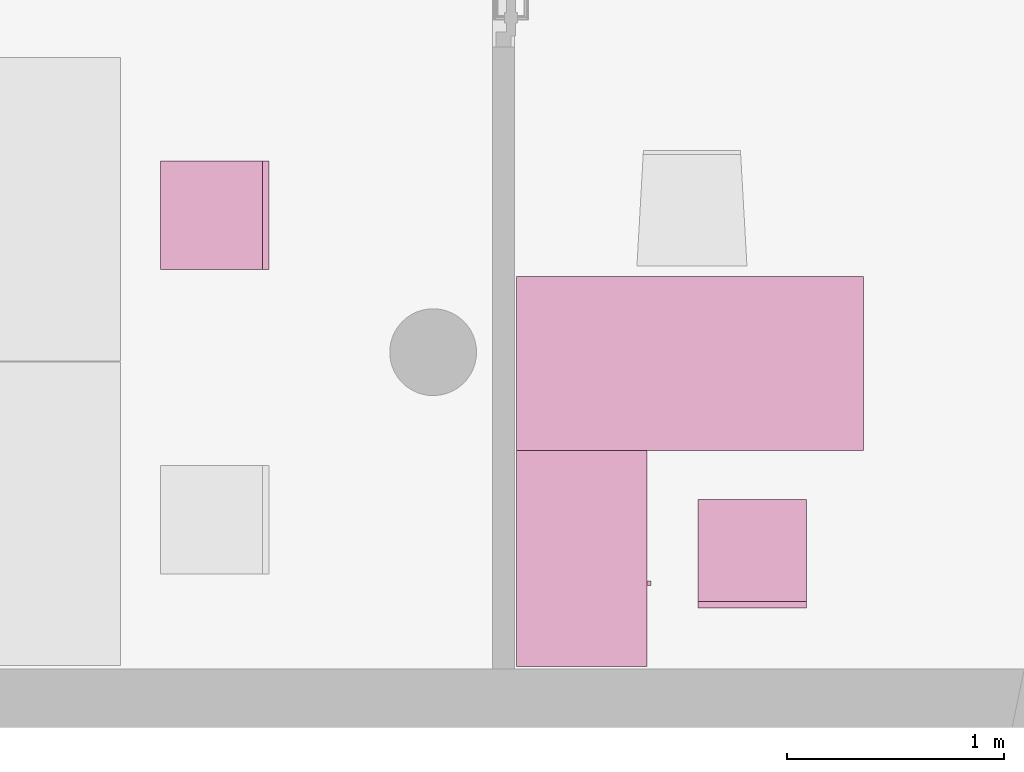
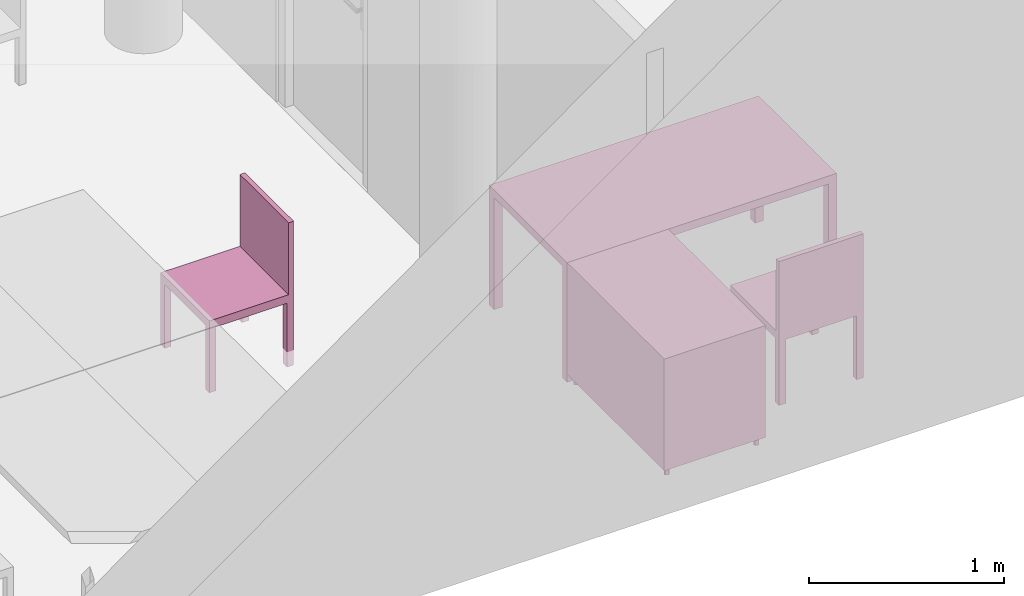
"""IFC4 building model written with IfcOpenShell, lengths in metres."""

from ifc_helpers import new_model, entity, si_unit, converted_unit, derived_unit, frame, origin, place, context, subcontext, project, spatial, faceted_brep, element, save


model = new_model("IFC4")

# Units and contexts
model_context = context("Model", 3, precision=1e-05, world=origin())
body_context = subcontext(model_context, "Body", "Model", "MODEL_VIEW")
ifc_project = project(units=[si_unit("LENGTHUNIT", "METRE"), si_unit("AREAUNIT", "SQUARE_METRE"), si_unit("VOLUMEUNIT", "CUBIC_METRE"), si_unit("MASSUNIT", "GRAM", prefix="KILO"), converted_unit("PLANEANGLEUNIT", "DEGREE", entity("IfcPlaneAngleMeasure", 0.0174532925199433), si_unit("PLANEANGLEUNIT", "RADIAN"), dimensions=[0, 0, 0, 0, 0, 0, 0]), derived_unit("THERMALTRANSMITTANCEUNIT", [(si_unit("POWERUNIT", "WATT"), 1), (si_unit("THERMODYNAMICTEMPERATUREUNIT", "KELVIN"), -1), (si_unit("LENGTHUNIT", "METRE"), -2)]), derived_unit("VOLUMETRICFLOWRATEUNIT", [(si_unit("LENGTHUNIT", "METRE"), 3), (converted_unit("TIMEUNIT", "hour", entity("IfcTimeMeasure", 3600.0), si_unit("TIMEUNIT", "SECOND"), dimensions=[0, 0, 1, 0, 0, 0, 0]), -1), (si_unit("LENGTHUNIT", "METRE"), -1)])], contexts=[model_context])

# Building, storeys
building_placement = place(None, origin())
building = spatial("IfcBuilding", under=ifc_project, at=building_placement, Name="HABITATGE PLURIFAMILIAR", CompositionType="ELEMENT")
storey_1_placement = place(building_placement, frame((0.0, 0.0, 12.27)))
storey_1 = spatial("IfcBuildingStorey", under=building, at=storey_1_placement, Name="PLANTA TERCERA", CompositionType="ELEMENT", Elevation=12.27)
storey_2_placement = place(storey_1_placement, frame((0.0, 0.0, 9.26)))
storey_2 = spatial("IfcBuildingStorey", under=storey_1, at=storey_2_placement, Name="NOU", CompositionType="PARTIAL")

# Furniture
furniture_1_placement = place(storey_2_placement, frame((421.376128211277, 14.117814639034, -9.3599999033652)))
element("IfcFurniture", 1, at=furniture_1_placement, inside=storey_2, Name="Taula 160X80_P3", context=body_context, shape_type="Brep", body=[
    faceted_brep([(1.546945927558, 0.750069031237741, 0.0), (1.596945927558, 0.750069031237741, 0.0), (1.596945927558, 0.800069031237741, 0.0), (1.546945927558, 0.800069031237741, 0.0), (1.546945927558, 0.800069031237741, 0.7), (1.596945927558, 0.800069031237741, 0.7), (1.596945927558, 0.750069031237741, 0.7), (1.546945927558, 0.750069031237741, 0.7)], [[[0, 1, 2, 3]], [[4, 5, 6, 7]], [[3, 4, 7, 0]], [[2, 5, 4, 3]], [[1, 6, 5, 2]], [[0, 7, 6, 1]]], orient=[[False], [False], [False], [False], [False], [False]]),
    faceted_brep([(1.546945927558, 0.0, 0.0), (1.596945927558, 0.0, 0.0), (1.596945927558, 0.05, 0.0), (1.546945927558, 0.05, 0.0), (1.546945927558, 0.05, 0.7), (1.596945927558, 0.05, 0.7), (1.596945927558, 0.0, 0.7), (1.546945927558, 0.0, 0.7)], [[[0, 1, 2, 3]], [[4, 5, 6, 7]], [[3, 4, 7, 0]], [[2, 5, 4, 3]], [[1, 6, 5, 2]], [[0, 7, 6, 1]]], orient=[[False], [False], [False], [False], [False], [False]]),
    faceted_brep([(0.0, 0.0, 0.7), (1.596945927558, 0.0, 0.7), (1.596945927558, 0.800069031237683, 0.7), (0.0, 0.800069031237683, 0.7), (0.0, 0.800069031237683, 0.75), (1.596945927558, 0.800069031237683, 0.75), (1.596945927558, 0.0, 0.75), (0.0, 0.0, 0.75)], [[[0, 1, 2, 3]], [[4, 5, 6, 7]], [[3, 4, 7, 0]], [[2, 5, 4, 3]], [[1, 6, 5, 2]], [[0, 7, 6, 1]]], orient=[[False], [False], [False], [False], [False], [False]]),
    faceted_brep([(0.0, 0.750069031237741, 0.0), (0.05, 0.750069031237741, 0.0), (0.05, 0.800069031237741, 0.0), (0.0, 0.800069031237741, 0.0), (0.0, 0.800069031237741, 0.7), (0.05, 0.800069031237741, 0.7), (0.05, 0.750069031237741, 0.7), (0.0, 0.750069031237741, 0.7)], [[[0, 1, 2, 3]], [[4, 5, 6, 7]], [[3, 4, 7, 0]], [[2, 5, 4, 3]], [[1, 6, 5, 2]], [[0, 7, 6, 1]]], orient=[[False], [False], [False], [False], [False], [False]]),
    faceted_brep([(0.0, 0.0, 0.0), (0.05, 0.0, 0.0), (0.05, 0.05, 0.0), (0.0, 0.05, 0.0), (0.0, 0.05, 0.7), (0.05, 0.05, 0.7), (0.05, 0.0, 0.7), (0.0, 0.0, 0.7)], [[[0, 1, 2, 3]], [[4, 5, 6, 7]], [[3, 4, 7, 0]], [[2, 5, 4, 3]], [[1, 6, 5, 2]], [[0, 7, 6, 1]]], orient=[[False], [False], [False], [False], [False], [False]]),
])
furniture_2_placement = place(storey_2_placement, frame((421.376128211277, 13.121840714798, -9.3599999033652)))
element("IfcFurniture", 2, at=furniture_2_placement, inside=storey_2, Name="Taula 100X60_P3", context=body_context, shape_type="Brep", body=[
    faceted_brep([(0.0, 1.00000000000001, 0.05), (0.6, 1.00000000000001, 0.05), (0.6, 1.00000000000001, 0.07), (0.0, 1.00000000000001, 0.07), (0.6, 0.0, 0.05), (0.6, 0.0, 0.07), (0.0, 0.0, 0.05), (0.0, 0.0, 0.07)], [[[0, 1, 2, 3]], [[1, 4, 5, 2]], [[4, 6, 7, 5]], [[6, 0, 3, 7]], [[0, 6, 4, 1]], [[3, 2, 5, 7]]], orient=[[False], [False], [False], [False], [False], [False]]),
    faceted_brep([(0.58, 1.00000000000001, 0.35), (0.0, 1.00000000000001, 0.35), (0.0, 0.0, 0.35), (0.58, 0.0, 0.35), (0.0, 1.00000000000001, 0.37), (0.58, 1.00000000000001, 0.37), (0.58, 0.0, 0.37), (0.0, 0.0, 0.37)], [[[0, 1, 2, 3]], [[4, 5, 6, 7]], [[1, 0, 5, 4]], [[2, 1, 4, 7]], [[3, 2, 7, 6]], [[0, 3, 6, 5]]], orient=[[False], [False], [False], [False], [False], [False]]),
    faceted_brep([(0.58, 0.490000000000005, 0.75), (0.58, 0.490000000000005, 0.05), (0.6, 0.490000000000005, 0.05), (0.6, 0.490000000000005, 0.75), (0.58, 0.0, 0.05), (0.6, 0.0, 0.05), (0.58, 0.0, 0.75), (0.6, 0.0, 0.75)], [[[0, 1, 2, 3]], [[1, 4, 5, 2]], [[4, 6, 7, 5]], [[6, 0, 3, 7]], [[0, 6, 4, 1]], [[3, 2, 5, 7]]], orient=[[False], [False], [False], [False], [False], [False]]),
    faceted_brep([(0.0, 0.980000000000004, 0.75), (0.0, 0.980000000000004, 0.0499999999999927), (0.0, 1.0, 0.0499999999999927), (0.0, 1.0, 0.75), (0.6, 0.980000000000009, 0.05), (0.6, 1.00000000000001, 0.05), (0.6, 0.980000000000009, 0.75), (0.6, 1.00000000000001, 0.75)], [[[0, 1, 2, 3]], [[1, 4, 5, 2]], [[4, 6, 7, 5]], [[6, 0, 3, 7]], [[0, 6, 4, 1]], [[3, 2, 5, 7]]], orient=[[False], [False], [False], [False], [False], [False]]),
    faceted_brep([(0.0, 0.470000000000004, 0.75), (0.0, 0.470000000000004, 0.0499999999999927), (0.0, 0.490000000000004, 0.0499999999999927), (0.0, 0.490000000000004, 0.75), (0.6, 0.470000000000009, 0.05), (0.6, 0.490000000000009, 0.05), (0.6, 0.470000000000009, 0.75), (0.6, 0.490000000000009, 0.75)], [[[0, 1, 2, 3]], [[1, 4, 5, 2]], [[4, 6, 7, 5]], [[6, 0, 3, 7]], [[0, 6, 4, 1]], [[3, 2, 5, 7]]], orient=[[False], [False], [False], [False], [False], [False]]),
    faceted_brep([(0.0, 0.47, 0.750000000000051), (0.0, 0.47, 0.0499999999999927), (0.0, 0.490000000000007, 0.0499999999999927), (0.0, 0.490000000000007, 0.750000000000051), (0.579999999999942, 0.469999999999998, 0.0499999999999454), (0.579999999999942, 0.490000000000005, 0.0499999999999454), (0.58, 0.469999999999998, 0.750000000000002), (0.58, 0.490000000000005, 0.750000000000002)], [[[0, 1, 2, 3]], [[1, 4, 5, 2]], [[4, 6, 7, 5]], [[6, 0, 3, 7]], [[0, 6, 4, 1]], [[3, 2, 5, 7]]], orient=[[False], [False], [False], [False], [False], [False]]),
    faceted_brep([(0.0, 0.0, 0.75), (0.0, 0.0, 0.0499999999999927), (0.0, 0.0200000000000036, 0.0499999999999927), (0.0, 0.0200000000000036, 0.75), (0.6, 0.0, 0.05), (0.6, 0.0200000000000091, 0.05), (0.6, 0.0, 0.75), (0.6, 0.0200000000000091, 0.75)], [[[0, 1, 2, 3]], [[1, 4, 5, 2]], [[4, 6, 7, 5]], [[6, 0, 3, 7]], [[0, 6, 4, 1]], [[3, 2, 5, 7]]], orient=[[False], [False], [False], [False], [False], [False]]),
    faceted_brep([(0.0, 1.00000000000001, 0.73), (0.6, 1.00000000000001, 0.73), (0.6, 1.00000000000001, 0.75), (0.0, 1.00000000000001, 0.75), (0.6, 0.0, 0.73), (0.6, 0.0, 0.75), (0.0, 0.0, 0.73), (0.0, 0.0, 0.75)], [[[0, 1, 2, 3]], [[1, 4, 5, 2]], [[4, 6, 7, 5]], [[6, 0, 3, 7]], [[0, 6, 4, 1]], [[3, 2, 5, 7]]], orient=[[False], [False], [False], [False], [False], [False]]),
    faceted_brep([(0.0, 0.980000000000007, 0.75), (0.0, 0.980000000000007, 0.05), (0.02, 0.980000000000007, 0.05), (0.02, 0.980000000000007, 0.75), (0.0, 0.0, 0.05), (0.02, 0.0, 0.05), (0.0, 0.0, 0.75), (0.02, 0.0, 0.75)], [[[0, 1, 2, 3]], [[1, 4, 5, 2]], [[4, 6, 7, 5]], [[6, 0, 3, 7]], [[0, 6, 4, 1]], [[3, 2, 5, 7]]], orient=[[False], [False], [False], [False], [False], [False]]),
    faceted_brep([(0.6, 0.374420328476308, 0.35), (0.62, 0.374420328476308, 0.35), (0.62, 0.394420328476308, 0.35), (0.6, 0.394420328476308, 0.35), (0.6, 0.394420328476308, 0.45), (0.62, 0.394420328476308, 0.45), (0.62, 0.374420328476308, 0.45), (0.6, 0.374420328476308, 0.45)], [[[0, 1, 2, 3]], [[4, 5, 6, 7]], [[3, 4, 7, 0]], [[2, 5, 4, 3]], [[1, 6, 5, 2]], [[0, 7, 6, 1]]], orient=[[False], [False], [False], [False], [False], [False]]),
    faceted_brep([(0.0361788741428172, 0.950063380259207, 0.0), (0.038772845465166, 0.950290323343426, 0.0), (0.0412880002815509, 0.950964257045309, 0.0), (0.0436479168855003, 0.95206470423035, 0.0), (0.0457808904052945, 0.953558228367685, 0.0), (0.0476221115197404, 0.955399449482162, 0.0), (0.0491156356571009, 0.957532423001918, 0.0), (0.0502160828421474, 0.959892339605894, 0.0), (0.0508900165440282, 0.962407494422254, 0.0), (0.0511169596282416, 0.96500146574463, 0.0), (0.0508900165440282, 0.967595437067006, 0.0), (0.0502160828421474, 0.970110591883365, 0.0), (0.0491156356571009, 0.972470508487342, 0.0), (0.0476221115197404, 0.974603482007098, 0.0), (0.0457808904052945, 0.976444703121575, 0.0), (0.0436479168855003, 0.97793822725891, 0.0), (0.0412880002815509, 0.979038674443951, 0.0), (0.038772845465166, 0.979712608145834, 0.0), (0.0361788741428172, 0.979939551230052, 0.0), (0.0335849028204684, 0.979712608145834, 0.0), (0.0310697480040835, 0.979038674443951, 0.0), (0.0287098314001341, 0.97793822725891, 0.0), (0.02657685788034, 0.976444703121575, 0.0), (0.024735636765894, 0.974603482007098, 0.0), (0.0232421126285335, 0.972470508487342, 0.0), (0.022141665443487, 0.970110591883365, 0.0), (0.0214677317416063, 0.967595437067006, 0.0), (0.0212407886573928, 0.96500146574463, 0.0), (0.0214677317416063, 0.962407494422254, 0.0), (0.022141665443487, 0.959892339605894, 0.0), (0.0232421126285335, 0.957532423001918, 0.0), (0.024735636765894, 0.955399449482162, 0.0), (0.02657685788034, 0.953558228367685, 0.0), (0.0287098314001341, 0.95206470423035, 0.0), (0.0310697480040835, 0.950964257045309, 0.0), (0.0335849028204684, 0.950290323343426, 0.0), (0.0361788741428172, 0.950063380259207, 0.05), (0.0335849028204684, 0.950290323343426, 0.05), (0.0310697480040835, 0.950964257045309, 0.05), (0.0287098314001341, 0.95206470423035, 0.05), (0.02657685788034, 0.953558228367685, 0.05), (0.024735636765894, 0.955399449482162, 0.05), (0.0232421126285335, 0.957532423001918, 0.05), (0.022141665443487, 0.959892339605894, 0.05), (0.0214677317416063, 0.962407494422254, 0.05), (0.0212407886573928, 0.96500146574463, 0.05), (0.0214677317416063, 0.967595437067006, 0.05), (0.022141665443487, 0.970110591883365, 0.05), (0.0232421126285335, 0.972470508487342, 0.05), (0.024735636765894, 0.974603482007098, 0.05), (0.02657685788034, 0.976444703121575, 0.05), (0.0287098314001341, 0.97793822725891, 0.05), (0.0310697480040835, 0.979038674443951, 0.05), (0.0335849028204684, 0.979712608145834, 0.05), (0.0361788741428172, 0.979939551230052, 0.05), (0.038772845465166, 0.979712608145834, 0.05), (0.0412880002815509, 0.979038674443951, 0.05), (0.0436479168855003, 0.97793822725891, 0.05), (0.0457808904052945, 0.976444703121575, 0.05), (0.0476221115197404, 0.974603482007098, 0.05), (0.0491156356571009, 0.972470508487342, 0.05), (0.0502160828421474, 0.970110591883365, 0.05), (0.0508900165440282, 0.967595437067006, 0.05), (0.0511169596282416, 0.96500146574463, 0.05), (0.0508900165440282, 0.962407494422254, 0.05), (0.0502160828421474, 0.959892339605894, 0.05), (0.0491156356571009, 0.957532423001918, 0.05), (0.0476221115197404, 0.955399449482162, 0.05), (0.0457808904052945, 0.953558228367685, 0.05), (0.0436479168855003, 0.95206470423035, 0.05), (0.0412880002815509, 0.950964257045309, 0.05), (0.038772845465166, 0.950290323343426, 0.05)], [[[0, 1, 2, 3, 4, 5, 6, 7, 8, 9, 10, 11, 12, 13, 14, 15, 16, 17, 18, 19, 20, 21, 22, 23, 24, 25, 26, 27, 28, 29, 30, 31, 32, 33, 34, 35]], [[36, 37, 38, 39, 40, 41, 42, 43, 44, 45, 46, 47, 48, 49, 50, 51, 52, 53, 54, 55, 56, 57, 58, 59, 60, 61, 62, 63, 64, 65, 66, 67, 68, 69, 70, 71]], [[1, 0, 36, 71]], [[2, 1, 71, 70]], [[3, 2, 70, 69]], [[4, 3, 69, 68]], [[5, 4, 68, 67]], [[6, 5, 67, 66]], [[7, 6, 66, 65]], [[8, 7, 65, 64]], [[9, 8, 64, 63]], [[10, 9, 63, 62]], [[11, 10, 62, 61]], [[12, 11, 61, 60]], [[13, 12, 60, 59]], [[14, 13, 59, 58]], [[15, 14, 58, 57]], [[16, 15, 57, 56]], [[17, 16, 56, 55]], [[18, 17, 55, 54]], [[19, 18, 54, 53]], [[20, 19, 53, 52]], [[21, 20, 52, 51]], [[22, 21, 51, 50]], [[23, 22, 50, 49]], [[24, 23, 49, 48]], [[25, 24, 48, 47]], [[26, 25, 47, 46]], [[27, 26, 46, 45]], [[28, 27, 45, 44]], [[29, 28, 44, 43]], [[30, 29, 43, 42]], [[31, 30, 42, 41]], [[32, 31, 41, 40]], [[33, 32, 40, 39]], [[34, 33, 39, 38]], [[35, 34, 38, 37]], [[0, 35, 37, 36]]], orient=[[False], [False], [False], [False], [False], [False], [False], [False], [False], [False], [False], [False], [False], [False], [False], [False], [False], [False], [False], [False], [False], [False], [False], [False], [False], [False], [False], [False], [False], [False], [False], [False], [False], [False], [False], [False], [False], [False]]),
    faceted_brep([(0.566178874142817, 0.950063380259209, 0.0), (0.568772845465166, 0.950290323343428, 0.0), (0.571288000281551, 0.950964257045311, 0.0), (0.5736479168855, 0.952064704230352, 0.0), (0.575780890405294, 0.953558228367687, 0.0), (0.57762211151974, 0.955399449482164, 0.0), (0.579115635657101, 0.95753242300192, 0.0), (0.580216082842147, 0.959892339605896, 0.0), (0.580890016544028, 0.962407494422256, 0.0), (0.581116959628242, 0.965001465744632, 0.0), (0.580890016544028, 0.967595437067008, 0.0), (0.580216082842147, 0.970110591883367, 0.0), (0.579115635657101, 0.972470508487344, 0.0), (0.57762211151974, 0.9746034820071, 0.0), (0.575780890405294, 0.976444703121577, 0.0), (0.5736479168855, 0.977938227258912, 0.0), (0.571288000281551, 0.979038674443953, 0.0), (0.568772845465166, 0.979712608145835, 0.0), (0.566178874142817, 0.979939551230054, 0.0), (0.563584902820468, 0.979712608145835, 0.0), (0.561069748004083, 0.979038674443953, 0.0), (0.558709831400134, 0.977938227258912, 0.0), (0.55657685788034, 0.976444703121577, 0.0), (0.554735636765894, 0.9746034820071, 0.0), (0.553242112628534, 0.972470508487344, 0.0), (0.552141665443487, 0.970110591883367, 0.0), (0.551467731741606, 0.967595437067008, 0.0), (0.551240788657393, 0.965001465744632, 0.0), (0.551467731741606, 0.962407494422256, 0.0), (0.552141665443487, 0.959892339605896, 0.0), (0.553242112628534, 0.95753242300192, 0.0), (0.554735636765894, 0.955399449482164, 0.0), (0.55657685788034, 0.953558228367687, 0.0), (0.558709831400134, 0.952064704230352, 0.0), (0.561069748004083, 0.950964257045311, 0.0), (0.563584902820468, 0.950290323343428, 0.0), (0.566178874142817, 0.950063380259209, 0.05), (0.563584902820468, 0.950290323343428, 0.05), (0.561069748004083, 0.950964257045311, 0.05), (0.558709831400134, 0.952064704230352, 0.05), (0.55657685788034, 0.953558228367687, 0.05), (0.554735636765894, 0.955399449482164, 0.05), (0.553242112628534, 0.95753242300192, 0.05), (0.552141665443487, 0.959892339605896, 0.05), (0.551467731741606, 0.962407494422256, 0.05), (0.551240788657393, 0.965001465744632, 0.05), (0.551467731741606, 0.967595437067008, 0.05), (0.552141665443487, 0.970110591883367, 0.05), (0.553242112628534, 0.972470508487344, 0.05), (0.554735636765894, 0.9746034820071, 0.05), (0.55657685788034, 0.976444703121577, 0.05), (0.558709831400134, 0.977938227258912, 0.05), (0.561069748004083, 0.979038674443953, 0.05), (0.563584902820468, 0.979712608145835, 0.05), (0.566178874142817, 0.979939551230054, 0.05), (0.568772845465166, 0.979712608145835, 0.05), (0.571288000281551, 0.979038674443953, 0.05), (0.5736479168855, 0.977938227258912, 0.05), (0.575780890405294, 0.976444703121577, 0.05), (0.57762211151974, 0.9746034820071, 0.05), (0.579115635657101, 0.972470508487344, 0.05), (0.580216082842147, 0.970110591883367, 0.05), (0.580890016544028, 0.967595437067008, 0.05), (0.581116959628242, 0.965001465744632, 0.05), (0.580890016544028, 0.962407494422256, 0.05), (0.580216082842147, 0.959892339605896, 0.05), (0.579115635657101, 0.95753242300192, 0.05), (0.57762211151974, 0.955399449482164, 0.05), (0.575780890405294, 0.953558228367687, 0.05), (0.5736479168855, 0.952064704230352, 0.05), (0.571288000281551, 0.950964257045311, 0.05), (0.568772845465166, 0.950290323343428, 0.05)], [[[0, 1, 2, 3, 4, 5, 6, 7, 8, 9, 10, 11, 12, 13, 14, 15, 16, 17, 18, 19, 20, 21, 22, 23, 24, 25, 26, 27, 28, 29, 30, 31, 32, 33, 34, 35]], [[36, 37, 38, 39, 40, 41, 42, 43, 44, 45, 46, 47, 48, 49, 50, 51, 52, 53, 54, 55, 56, 57, 58, 59, 60, 61, 62, 63, 64, 65, 66, 67, 68, 69, 70, 71]], [[1, 0, 36, 71]], [[2, 1, 71, 70]], [[3, 2, 70, 69]], [[4, 3, 69, 68]], [[5, 4, 68, 67]], [[6, 5, 67, 66]], [[7, 6, 66, 65]], [[8, 7, 65, 64]], [[9, 8, 64, 63]], [[10, 9, 63, 62]], [[11, 10, 62, 61]], [[12, 11, 61, 60]], [[13, 12, 60, 59]], [[14, 13, 59, 58]], [[15, 14, 58, 57]], [[16, 15, 57, 56]], [[17, 16, 56, 55]], [[18, 17, 55, 54]], [[19, 18, 54, 53]], [[20, 19, 53, 52]], [[21, 20, 52, 51]], [[22, 21, 51, 50]], [[23, 22, 50, 49]], [[24, 23, 49, 48]], [[25, 24, 48, 47]], [[26, 25, 47, 46]], [[27, 26, 46, 45]], [[28, 27, 45, 44]], [[29, 28, 44, 43]], [[30, 29, 43, 42]], [[31, 30, 42, 41]], [[32, 31, 41, 40]], [[33, 32, 40, 39]], [[34, 33, 39, 38]], [[35, 34, 38, 37]], [[0, 35, 37, 36]]], orient=[[False], [False], [False], [False], [False], [False], [False], [False], [False], [False], [False], [False], [False], [False], [False], [False], [False], [False], [False], [False], [False], [False], [False], [False], [False], [False], [False], [False], [False], [False], [False], [False], [False], [False], [False], [False], [False], [False]]),
    faceted_brep([(0.564999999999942, 0.0200170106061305, 0.0), (0.567593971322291, 0.0202439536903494, 0.0), (0.570109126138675, 0.0209178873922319, 0.0), (0.572469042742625, 0.022018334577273, 0.0), (0.574602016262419, 0.023511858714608, 0.0), (0.576443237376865, 0.0253530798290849, 0.0), (0.577936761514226, 0.0274860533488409, 0.0), (0.579037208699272, 0.0298459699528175, 0.0), (0.579711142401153, 0.032361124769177, 0.0), (0.579938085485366, 0.0349550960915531, 0.0), (0.579711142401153, 0.0375490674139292, 0.0), (0.579037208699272, 0.0400642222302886, 0.0), (0.577936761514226, 0.0424241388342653, 0.0), (0.576443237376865, 0.0445571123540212, 0.0), (0.574602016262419, 0.0463983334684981, 0.0), (0.572469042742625, 0.0478918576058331, 0.0), (0.570109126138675, 0.0489923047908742, 0.0), (0.567593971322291, 0.0496662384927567, 0.0), (0.564999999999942, 0.0498931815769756, 0.0), (0.562406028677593, 0.0496662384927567, 0.0), (0.559890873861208, 0.0489923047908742, 0.0), (0.557530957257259, 0.0478918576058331, 0.0), (0.555397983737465, 0.0463983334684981, 0.0), (0.553556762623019, 0.0445571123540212, 0.0), (0.552063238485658, 0.0424241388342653, 0.0), (0.550962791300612, 0.0400642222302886, 0.0), (0.550288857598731, 0.0375490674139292, 0.0), (0.550061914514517, 0.0349550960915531, 0.0), (0.550288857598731, 0.032361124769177, 0.0), (0.550962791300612, 0.0298459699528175, 0.0), (0.552063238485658, 0.0274860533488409, 0.0), (0.553556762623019, 0.0253530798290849, 0.0), (0.555397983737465, 0.023511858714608, 0.0), (0.557530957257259, 0.022018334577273, 0.0), (0.559890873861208, 0.0209178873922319, 0.0), (0.562406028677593, 0.0202439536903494, 0.0), (0.564999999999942, 0.0200170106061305, 0.05), (0.562406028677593, 0.0202439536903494, 0.05), (0.559890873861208, 0.0209178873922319, 0.05), (0.557530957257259, 0.022018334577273, 0.05), (0.555397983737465, 0.023511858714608, 0.05), (0.553556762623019, 0.0253530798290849, 0.05), (0.552063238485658, 0.0274860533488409, 0.05), (0.550962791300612, 0.0298459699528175, 0.05), (0.550288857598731, 0.032361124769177, 0.05), (0.550061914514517, 0.0349550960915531, 0.05), (0.550288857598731, 0.0375490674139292, 0.05), (0.550962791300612, 0.0400642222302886, 0.05), (0.552063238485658, 0.0424241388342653, 0.05), (0.553556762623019, 0.0445571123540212, 0.05), (0.555397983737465, 0.0463983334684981, 0.05), (0.557530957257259, 0.0478918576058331, 0.05), (0.559890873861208, 0.0489923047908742, 0.05), (0.562406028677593, 0.0496662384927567, 0.05), (0.564999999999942, 0.0498931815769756, 0.05), (0.567593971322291, 0.0496662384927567, 0.05), (0.570109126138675, 0.0489923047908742, 0.05), (0.572469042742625, 0.0478918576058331, 0.05), (0.574602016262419, 0.0463983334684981, 0.05), (0.576443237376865, 0.0445571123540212, 0.05), (0.577936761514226, 0.0424241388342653, 0.05), (0.579037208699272, 0.0400642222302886, 0.05), (0.579711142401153, 0.0375490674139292, 0.05), (0.579938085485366, 0.0349550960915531, 0.05), (0.579711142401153, 0.032361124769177, 0.05), (0.579037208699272, 0.0298459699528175, 0.05), (0.577936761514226, 0.0274860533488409, 0.05), (0.576443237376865, 0.0253530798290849, 0.05), (0.574602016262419, 0.023511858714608, 0.05), (0.572469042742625, 0.022018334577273, 0.05), (0.570109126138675, 0.0209178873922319, 0.05), (0.567593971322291, 0.0202439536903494, 0.05)], [[[0, 1, 2, 3, 4, 5, 6, 7, 8, 9, 10, 11, 12, 13, 14, 15, 16, 17, 18, 19, 20, 21, 22, 23, 24, 25, 26, 27, 28, 29, 30, 31, 32, 33, 34, 35]], [[36, 37, 38, 39, 40, 41, 42, 43, 44, 45, 46, 47, 48, 49, 50, 51, 52, 53, 54, 55, 56, 57, 58, 59, 60, 61, 62, 63, 64, 65, 66, 67, 68, 69, 70, 71]], [[1, 0, 36, 71]], [[2, 1, 71, 70]], [[3, 2, 70, 69]], [[4, 3, 69, 68]], [[5, 4, 68, 67]], [[6, 5, 67, 66]], [[7, 6, 66, 65]], [[8, 7, 65, 64]], [[9, 8, 64, 63]], [[10, 9, 63, 62]], [[11, 10, 62, 61]], [[12, 11, 61, 60]], [[13, 12, 60, 59]], [[14, 13, 59, 58]], [[15, 14, 58, 57]], [[16, 15, 57, 56]], [[17, 16, 56, 55]], [[18, 17, 55, 54]], [[19, 18, 54, 53]], [[20, 19, 53, 52]], [[21, 20, 52, 51]], [[22, 21, 51, 50]], [[23, 22, 50, 49]], [[24, 23, 49, 48]], [[25, 24, 48, 47]], [[26, 25, 47, 46]], [[27, 26, 46, 45]], [[28, 27, 45, 44]], [[29, 28, 44, 43]], [[30, 29, 43, 42]], [[31, 30, 42, 41]], [[32, 31, 41, 40]], [[33, 32, 40, 39]], [[34, 33, 39, 38]], [[35, 34, 38, 37]], [[0, 35, 37, 36]]], orient=[[False], [False], [False], [False], [False], [False], [False], [False], [False], [False], [False], [False], [False], [False], [False], [False], [False], [False], [False], [False], [False], [False], [False], [False], [False], [False], [False], [False], [False], [False], [False], [False], [False], [False], [False], [False], [False], [False]]),
    faceted_brep([(0.0349662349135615, 0.0203520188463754, 0.0), (0.0375602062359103, 0.0205789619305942, 0.0), (0.0400753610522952, 0.0212528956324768, 0.0), (0.0424352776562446, 0.0223533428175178, 0.0), (0.0445682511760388, 0.0238468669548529, 0.0), (0.0464094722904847, 0.0256880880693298, 0.0), (0.0479029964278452, 0.0278210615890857, 0.0), (0.0490034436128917, 0.0301809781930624, 0.0), (0.0496773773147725, 0.0326961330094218, 0.0), (0.0499043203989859, 0.0352901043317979, 0.0), (0.0496773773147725, 0.037884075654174, 0.0), (0.0490034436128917, 0.0403992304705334, 0.0), (0.0479029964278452, 0.0427591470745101, 0.0), (0.0464094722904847, 0.0448921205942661, 0.0), (0.0445682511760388, 0.046733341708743, 0.0), (0.0424352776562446, 0.048226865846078, 0.0), (0.0400753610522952, 0.049327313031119, 0.0), (0.0375602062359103, 0.0500012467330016, 0.0), (0.0349662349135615, 0.0502281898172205, 0.0), (0.0323722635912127, 0.0500012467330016, 0.0), (0.0298571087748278, 0.049327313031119, 0.0), (0.0274971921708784, 0.048226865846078, 0.0), (0.0253642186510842, 0.046733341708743, 0.0), (0.0235229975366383, 0.0448921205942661, 0.0), (0.0220294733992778, 0.0427591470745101, 0.0), (0.0209290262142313, 0.0403992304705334, 0.0), (0.0202550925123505, 0.037884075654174, 0.0), (0.0200281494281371, 0.0352901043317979, 0.0), (0.0202550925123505, 0.0326961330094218, 0.0), (0.0209290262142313, 0.0301809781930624, 0.0), (0.0220294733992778, 0.0278210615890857, 0.0), (0.0235229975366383, 0.0256880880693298, 0.0), (0.0253642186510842, 0.0238468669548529, 0.0), (0.0274971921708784, 0.0223533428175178, 0.0), (0.0298571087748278, 0.0212528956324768, 0.0), (0.0323722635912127, 0.0205789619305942, 0.0), (0.0349662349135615, 0.0203520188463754, 0.05), (0.0323722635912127, 0.0205789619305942, 0.05), (0.0298571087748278, 0.0212528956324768, 0.05), (0.0274971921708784, 0.0223533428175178, 0.05), (0.0253642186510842, 0.0238468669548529, 0.05), (0.0235229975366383, 0.0256880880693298, 0.05), (0.0220294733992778, 0.0278210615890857, 0.05), (0.0209290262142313, 0.0301809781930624, 0.05), (0.0202550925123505, 0.0326961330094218, 0.05), (0.0200281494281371, 0.0352901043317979, 0.05), (0.0202550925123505, 0.037884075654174, 0.05), (0.0209290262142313, 0.0403992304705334, 0.05), (0.0220294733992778, 0.0427591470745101, 0.05), (0.0235229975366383, 0.0448921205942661, 0.05), (0.0253642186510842, 0.046733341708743, 0.05), (0.0274971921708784, 0.048226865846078, 0.05), (0.0298571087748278, 0.049327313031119, 0.05), (0.0323722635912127, 0.0500012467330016, 0.05), (0.0349662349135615, 0.0502281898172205, 0.05), (0.0375602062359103, 0.0500012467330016, 0.05), (0.0400753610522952, 0.049327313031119, 0.05), (0.0424352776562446, 0.048226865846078, 0.05), (0.0445682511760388, 0.046733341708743, 0.05), (0.0464094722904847, 0.0448921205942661, 0.05), (0.0479029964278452, 0.0427591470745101, 0.05), (0.0490034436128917, 0.0403992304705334, 0.05), (0.0496773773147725, 0.037884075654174, 0.05), (0.0499043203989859, 0.0352901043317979, 0.05), (0.0496773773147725, 0.0326961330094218, 0.05), (0.0490034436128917, 0.0301809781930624, 0.05), (0.0479029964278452, 0.0278210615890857, 0.05), (0.0464094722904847, 0.0256880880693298, 0.05), (0.0445682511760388, 0.0238468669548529, 0.05), (0.0424352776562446, 0.0223533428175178, 0.05), (0.0400753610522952, 0.0212528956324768, 0.05), (0.0375602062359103, 0.0205789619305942, 0.05)], [[[0, 1, 2, 3, 4, 5, 6, 7, 8, 9, 10, 11, 12, 13, 14, 15, 16, 17, 18, 19, 20, 21, 22, 23, 24, 25, 26, 27, 28, 29, 30, 31, 32, 33, 34, 35]], [[36, 37, 38, 39, 40, 41, 42, 43, 44, 45, 46, 47, 48, 49, 50, 51, 52, 53, 54, 55, 56, 57, 58, 59, 60, 61, 62, 63, 64, 65, 66, 67, 68, 69, 70, 71]], [[1, 0, 36, 71]], [[2, 1, 71, 70]], [[3, 2, 70, 69]], [[4, 3, 69, 68]], [[5, 4, 68, 67]], [[6, 5, 67, 66]], [[7, 6, 66, 65]], [[8, 7, 65, 64]], [[9, 8, 64, 63]], [[10, 9, 63, 62]], [[11, 10, 62, 61]], [[12, 11, 61, 60]], [[13, 12, 60, 59]], [[14, 13, 59, 58]], [[15, 14, 58, 57]], [[16, 15, 57, 56]], [[17, 16, 56, 55]], [[18, 17, 55, 54]], [[19, 18, 54, 53]], [[20, 19, 53, 52]], [[21, 20, 52, 51]], [[22, 21, 51, 50]], [[23, 22, 50, 49]], [[24, 23, 49, 48]], [[25, 24, 48, 47]], [[26, 25, 47, 46]], [[27, 26, 46, 45]], [[28, 27, 45, 44]], [[29, 28, 44, 43]], [[30, 29, 43, 42]], [[31, 30, 42, 41]], [[32, 31, 41, 40]], [[33, 32, 40, 39]], [[34, 33, 39, 38]], [[35, 34, 38, 37]], [[0, 35, 37, 36]]], orient=[[False], [False], [False], [False], [False], [False], [False], [False], [False], [False], [False], [False], [False], [False], [False], [False], [False], [False], [False], [False], [False], [False], [False], [False], [False], [False], [False], [False], [False], [False], [False], [False], [False], [False], [False], [False], [False], [False]]),
])
furniture_3_placement = place(storey_2_placement, frame((419.737087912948, 14.9492104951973, -9.35590342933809)))
element("IfcFurniture", 3, at=furniture_3_placement, inside=storey_2, Name="Cadira d'Oficina_P3", context=body_context, shape_type="Brep", body=[
    faceted_brep([(0.0, 0.500000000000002, 0.4), (0.0, 0.0, 0.4), (0.5, 0.0, 0.4), (0.5, 0.5, 0.4), (0.5, 0.5, 0.45), (0.5, 0.0, 0.45), (0.0, 0.0, 0.45), (0.0, 0.500000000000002, 0.45)], [[[0, 1, 2, 3]], [[4, 5, 6, 7]], [[3, 4, 7, 0]], [[2, 5, 4, 3]], [[1, 6, 5, 2]], [[0, 7, 6, 1]]], orient=[[False], [False], [False], [False], [False], [False]]),
    faceted_brep([(0.46, 0.0, 0.0), (0.5, 0.0, 0.0), (0.5, 0.04, 0.0), (0.46, 0.0400000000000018, 0.0), (0.46, 0.0400000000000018, 0.4), (0.5, 0.04, 0.4), (0.5, 0.0, 0.4), (0.46, 0.0, 0.4)], [[[0, 1, 2, 3]], [[4, 5, 6, 7]], [[3, 4, 7, 0]], [[2, 5, 4, 3]], [[1, 6, 5, 2]], [[0, 7, 6, 1]]], orient=[[False], [False], [False], [False], [False], [False]]),
    faceted_brep([(0.0, 0.0, 0.0), (0.04, 0.0, 0.0), (0.04, 0.0400000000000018, 0.0), (0.0, 0.0400000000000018, 0.0), (0.0, 0.0400000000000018, 0.4), (0.04, 0.0400000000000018, 0.4), (0.04, 0.0, 0.4), (0.0, 0.0, 0.4)], [[[0, 1, 2, 3]], [[4, 5, 6, 7]], [[3, 4, 7, 0]], [[2, 5, 4, 3]], [[1, 6, 5, 2]], [[0, 7, 6, 1]]], orient=[[False], [False], [False], [False], [False], [False]]),
    faceted_brep([(0.46, 0.46, 0.0), (0.5, 0.46, 0.0), (0.5, 0.5, 0.0), (0.46, 0.5, 0.0), (0.46, 0.5, 0.4), (0.5, 0.5, 0.4), (0.5, 0.46, 0.4), (0.46, 0.46, 0.4)], [[[0, 1, 2, 3]], [[4, 5, 6, 7]], [[3, 4, 7, 0]], [[2, 5, 4, 3]], [[1, 6, 5, 2]], [[0, 7, 6, 1]]], orient=[[False], [False], [False], [False], [False], [False]]),
    faceted_brep([(0.0, 0.460000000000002, 0.0), (0.04, 0.460000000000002, 0.0), (0.04, 0.500000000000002, 0.0), (0.0, 0.500000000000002, 0.0), (0.0, 0.500000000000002, 0.4), (0.04, 0.500000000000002, 0.4), (0.04, 0.460000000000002, 0.4), (0.0, 0.460000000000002, 0.4)], [[[0, 1, 2, 3]], [[4, 5, 6, 7]], [[3, 4, 7, 0]], [[2, 5, 4, 3]], [[1, 6, 5, 2]], [[0, 7, 6, 1]]], orient=[[False], [False], [False], [False], [False], [False]]),
    faceted_brep([(0.47, 0.0, 0.45), (0.5, 0.0, 0.45), (0.5, 0.5, 0.45), (0.47, 0.5, 0.45), (0.47, 0.5, 0.9), (0.5, 0.5, 0.9), (0.5, 0.0, 0.9), (0.47, 0.0, 0.9)], [[[0, 1, 2, 3]], [[4, 5, 6, 7]], [[3, 4, 7, 0]], [[2, 5, 4, 3]], [[1, 6, 5, 2]], [[0, 7, 6, 1]]], orient=[[False], [False], [False], [False], [False], [False]]),
])
furniture_4_placement = place(storey_2_placement, frame((422.211001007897, 13.3907508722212, -9.35590342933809)))
element("IfcFurniture", 4, at=furniture_4_placement, inside=storey_2, Name="Cadira d'Oficina_P3", context=body_context, shape_type="Brep", body=[
    faceted_brep([(0.5, 0.500000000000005, 0.4), (0.0, 0.500000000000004, 0.4), (0.0, 0.0, 0.4), (0.5, 0.0, 0.4), (0.5, 0.0, 0.45), (0.0, 0.0, 0.45), (0.0, 0.500000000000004, 0.45), (0.5, 0.500000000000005, 0.45)], [[[0, 1, 2, 3]], [[4, 5, 6, 7]], [[3, 4, 7, 0]], [[2, 5, 4, 3]], [[1, 6, 5, 2]], [[0, 7, 6, 1]]], orient=[[False], [False], [False], [False], [False], [False]]),
    faceted_brep([(0.0, 0.04, 0.0), (0.0, 0.0, 0.0), (0.04, 0.0, 0.0), (0.04, 0.04, 0.0), (0.04, 0.04, 0.4), (0.04, 0.0, 0.4), (0.0, 0.0, 0.4), (0.0, 0.04, 0.4)], [[[0, 1, 2, 3]], [[4, 5, 6, 7]], [[3, 4, 7, 0]], [[2, 5, 4, 3]], [[1, 6, 5, 2]], [[0, 7, 6, 1]]], orient=[[False], [False], [False], [False], [False], [False]]),
    faceted_brep([(0.0, 0.500000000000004, 0.0), (0.0, 0.460000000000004, 0.0), (0.04, 0.460000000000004, 0.0), (0.04, 0.500000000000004, 0.0), (0.04, 0.500000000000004, 0.4), (0.04, 0.460000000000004, 0.4), (0.0, 0.460000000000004, 0.4), (0.0, 0.500000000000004, 0.4)], [[[0, 1, 2, 3]], [[4, 5, 6, 7]], [[3, 4, 7, 0]], [[2, 5, 4, 3]], [[1, 6, 5, 2]], [[0, 7, 6, 1]]], orient=[[False], [False], [False], [False], [False], [False]]),
    faceted_brep([(0.46, 0.0400000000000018, 0.0), (0.46, 0.0, 0.0), (0.5, 0.0, 0.0), (0.5, 0.0400000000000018, 0.0), (0.5, 0.0400000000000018, 0.4), (0.5, 0.0, 0.4), (0.46, 0.0, 0.4), (0.46, 0.0400000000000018, 0.4)], [[[0, 1, 2, 3]], [[4, 5, 6, 7]], [[3, 4, 7, 0]], [[2, 5, 4, 3]], [[1, 6, 5, 2]], [[0, 7, 6, 1]]], orient=[[False], [False], [False], [False], [False], [False]]),
    faceted_brep([(0.46, 0.500000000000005, 0.0), (0.46, 0.460000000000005, 0.0), (0.5, 0.460000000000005, 0.0), (0.5, 0.500000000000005, 0.0), (0.5, 0.500000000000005, 0.4), (0.5, 0.460000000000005, 0.4), (0.46, 0.460000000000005, 0.4), (0.46, 0.500000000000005, 0.4)], [[[0, 1, 2, 3]], [[4, 5, 6, 7]], [[3, 4, 7, 0]], [[2, 5, 4, 3]], [[1, 6, 5, 2]], [[0, 7, 6, 1]]], orient=[[False], [False], [False], [False], [False], [False]]),
    faceted_brep([(0.0, 0.03, 0.45), (0.0, 0.0, 0.45), (0.5, 0.0, 0.45), (0.5, 0.0300000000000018, 0.45), (0.5, 0.0300000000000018, 0.9), (0.5, 0.0, 0.9), (0.0, 0.0, 0.9), (0.0, 0.03, 0.9)], [[[0, 1, 2, 3]], [[4, 5, 6, 7]], [[3, 4, 7, 0]], [[2, 5, 4, 3]], [[1, 6, 5, 2]], [[0, 7, 6, 1]]], orient=[[False], [False], [False], [False], [False], [False]]),
])

save(model, "model.ifc")
